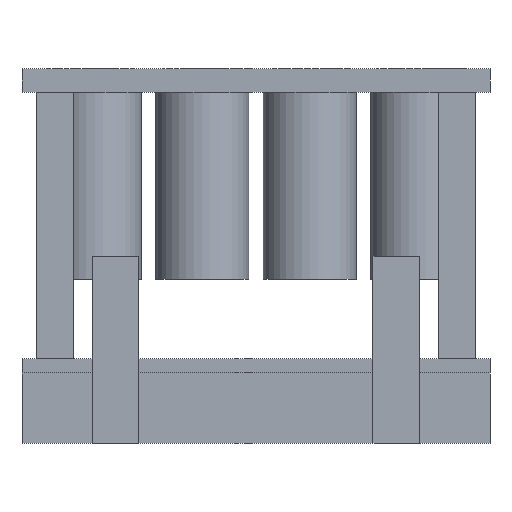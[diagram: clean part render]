
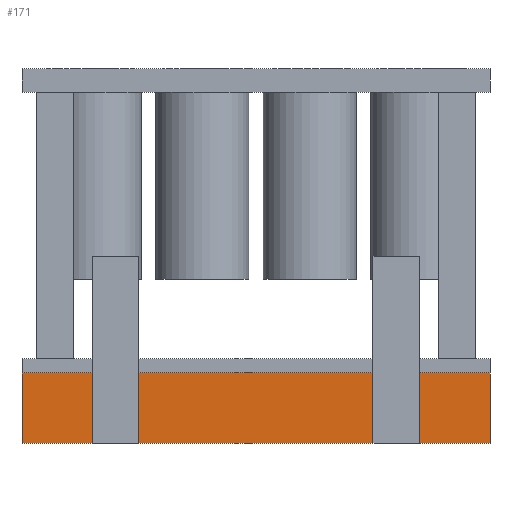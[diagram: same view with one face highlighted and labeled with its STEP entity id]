
A CAD part, front view. The second image highlights one B-rep face of the part: STEP entity #171.
In plain terms, the highlighted planar face has unit normal (0, -1, 0).
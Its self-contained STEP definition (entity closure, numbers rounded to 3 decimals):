
#55 = EDGE_CURVE('',#56,#58,#60,.T.);
#56 = VERTEX_POINT('',#57);
#57 = CARTESIAN_POINT('',(-50.,-30.,0.));
#58 = VERTEX_POINT('',#59);
#59 = CARTESIAN_POINT('',(-50.,-30.,15.));
#60 = SURFACE_CURVE('',#61,(#65,#77),.PCURVE_S1.);
#61 = LINE('',#62,#63);
#62 = CARTESIAN_POINT('',(-50.,-30.,0.));
#63 = VECTOR('',#64,1.);
#64 = DIRECTION('',(0.,0.,1.));
#65 = PCURVE('',#66,#71);
#66 = PLANE('',#67);
#67 = AXIS2_PLACEMENT_3D('',#68,#69,#70);
#68 = CARTESIAN_POINT('',(-50.,-30.,0.));
#69 = DIRECTION('',(1.,0.,0.));
#70 = DIRECTION('',(0.,0.,1.));
#71 = DEFINITIONAL_REPRESENTATION('',(#72),#76);
#72 = LINE('',#73,#74);
#73 = CARTESIAN_POINT('',(0.,0.));
#74 = VECTOR('',#75,1.);
#75 = DIRECTION('',(1.,0.));
#76 = ( GEOMETRIC_REPRESENTATION_CONTEXT(2) 
PARAMETRIC_REPRESENTATION_CONTEXT() REPRESENTATION_CONTEXT('2D SPACE',''
  ) );
#77 = PCURVE('',#78,#83);
#78 = PLANE('',#79);
#79 = AXIS2_PLACEMENT_3D('',#80,#81,#82);
#80 = CARTESIAN_POINT('',(-50.,-30.,0.));
#81 = DIRECTION('',(0.,1.,0.));
#82 = DIRECTION('',(0.,-0.,1.));
#83 = DEFINITIONAL_REPRESENTATION('',(#84),#88);
#84 = LINE('',#85,#86);
#85 = CARTESIAN_POINT('',(0.,0.));
#86 = VECTOR('',#87,1.);
#87 = DIRECTION('',(1.,0.));
#88 = ( GEOMETRIC_REPRESENTATION_CONTEXT(2) 
PARAMETRIC_REPRESENTATION_CONTEXT() REPRESENTATION_CONTEXT('2D SPACE',''
  ) );
#106 = PLANE('',#107);
#107 = AXIS2_PLACEMENT_3D('',#108,#109,#110);
#108 = CARTESIAN_POINT('',(-50.,-30.,0.));
#109 = DIRECTION('',(0.,0.,1.));
#110 = DIRECTION('',(1.,0.,-0.));
#160 = PLANE('',#161);
#161 = AXIS2_PLACEMENT_3D('',#162,#163,#164);
#162 = CARTESIAN_POINT('',(-50.,-30.,15.));
#163 = DIRECTION('',(0.,0.,1.));
#164 = DIRECTION('',(1.,0.,-0.));
#171 = ADVANCED_FACE('',(#172),#78,.F.);
#172 = FACE_BOUND('',#173,.F.);
#173 = EDGE_LOOP('',(#174,#197,#198,#221));
#174 = ORIENTED_EDGE('',*,*,#175,.F.);
#175 = EDGE_CURVE('',#56,#176,#178,.T.);
#176 = VERTEX_POINT('',#177);
#177 = CARTESIAN_POINT('',(50.,-30.,0.));
#178 = SURFACE_CURVE('',#179,(#183,#190),.PCURVE_S1.);
#179 = LINE('',#180,#181);
#180 = CARTESIAN_POINT('',(-50.,-30.,0.));
#181 = VECTOR('',#182,1.);
#182 = DIRECTION('',(1.,0.,0.));
#183 = PCURVE('',#78,#184);
#184 = DEFINITIONAL_REPRESENTATION('',(#185),#189);
#185 = LINE('',#186,#187);
#186 = CARTESIAN_POINT('',(0.,0.));
#187 = VECTOR('',#188,1.);
#188 = DIRECTION('',(0.,1.));
#189 = ( GEOMETRIC_REPRESENTATION_CONTEXT(2) 
PARAMETRIC_REPRESENTATION_CONTEXT() REPRESENTATION_CONTEXT('2D SPACE',''
  ) );
#190 = PCURVE('',#106,#191);
#191 = DEFINITIONAL_REPRESENTATION('',(#192),#196);
#192 = LINE('',#193,#194);
#193 = CARTESIAN_POINT('',(0.,0.));
#194 = VECTOR('',#195,1.);
#195 = DIRECTION('',(1.,0.));
#196 = ( GEOMETRIC_REPRESENTATION_CONTEXT(2) 
PARAMETRIC_REPRESENTATION_CONTEXT() REPRESENTATION_CONTEXT('2D SPACE',''
  ) );
#197 = ORIENTED_EDGE('',*,*,#55,.T.);
#198 = ORIENTED_EDGE('',*,*,#199,.T.);
#199 = EDGE_CURVE('',#58,#200,#202,.T.);
#200 = VERTEX_POINT('',#201);
#201 = CARTESIAN_POINT('',(50.,-30.,15.));
#202 = SURFACE_CURVE('',#203,(#207,#214),.PCURVE_S1.);
#203 = LINE('',#204,#205);
#204 = CARTESIAN_POINT('',(-50.,-30.,15.));
#205 = VECTOR('',#206,1.);
#206 = DIRECTION('',(1.,0.,0.));
#207 = PCURVE('',#78,#208);
#208 = DEFINITIONAL_REPRESENTATION('',(#209),#213);
#209 = LINE('',#210,#211);
#210 = CARTESIAN_POINT('',(15.,0.));
#211 = VECTOR('',#212,1.);
#212 = DIRECTION('',(0.,1.));
#213 = ( GEOMETRIC_REPRESENTATION_CONTEXT(2) 
PARAMETRIC_REPRESENTATION_CONTEXT() REPRESENTATION_CONTEXT('2D SPACE',''
  ) );
#214 = PCURVE('',#160,#215);
#215 = DEFINITIONAL_REPRESENTATION('',(#216),#220);
#216 = LINE('',#217,#218);
#217 = CARTESIAN_POINT('',(0.,0.));
#218 = VECTOR('',#219,1.);
#219 = DIRECTION('',(1.,0.));
#220 = ( GEOMETRIC_REPRESENTATION_CONTEXT(2) 
PARAMETRIC_REPRESENTATION_CONTEXT() REPRESENTATION_CONTEXT('2D SPACE',''
  ) );
#221 = ORIENTED_EDGE('',*,*,#222,.F.);
#222 = EDGE_CURVE('',#176,#200,#223,.T.);
#223 = SURFACE_CURVE('',#224,(#228,#235),.PCURVE_S1.);
#224 = LINE('',#225,#226);
#225 = CARTESIAN_POINT('',(50.,-30.,0.));
#226 = VECTOR('',#227,1.);
#227 = DIRECTION('',(0.,0.,1.));
#228 = PCURVE('',#78,#229);
#229 = DEFINITIONAL_REPRESENTATION('',(#230),#234);
#230 = LINE('',#231,#232);
#231 = CARTESIAN_POINT('',(0.,100.));
#232 = VECTOR('',#233,1.);
#233 = DIRECTION('',(1.,0.));
#234 = ( GEOMETRIC_REPRESENTATION_CONTEXT(2) 
PARAMETRIC_REPRESENTATION_CONTEXT() REPRESENTATION_CONTEXT('2D SPACE',''
  ) );
#235 = PCURVE('',#236,#241);
#236 = PLANE('',#237);
#237 = AXIS2_PLACEMENT_3D('',#238,#239,#240);
#238 = CARTESIAN_POINT('',(50.,-30.,0.));
#239 = DIRECTION('',(1.,0.,0.));
#240 = DIRECTION('',(0.,0.,1.));
#241 = DEFINITIONAL_REPRESENTATION('',(#242),#246);
#242 = LINE('',#243,#244);
#243 = CARTESIAN_POINT('',(0.,0.));
#244 = VECTOR('',#245,1.);
#245 = DIRECTION('',(1.,0.));
#246 = ( GEOMETRIC_REPRESENTATION_CONTEXT(2) 
PARAMETRIC_REPRESENTATION_CONTEXT() REPRESENTATION_CONTEXT('2D SPACE',''
  ) );
